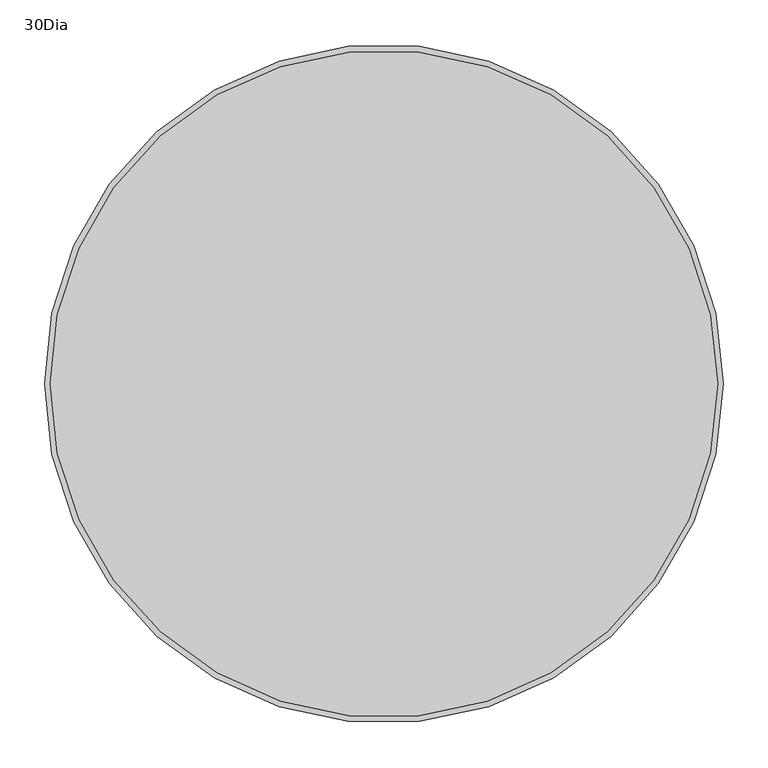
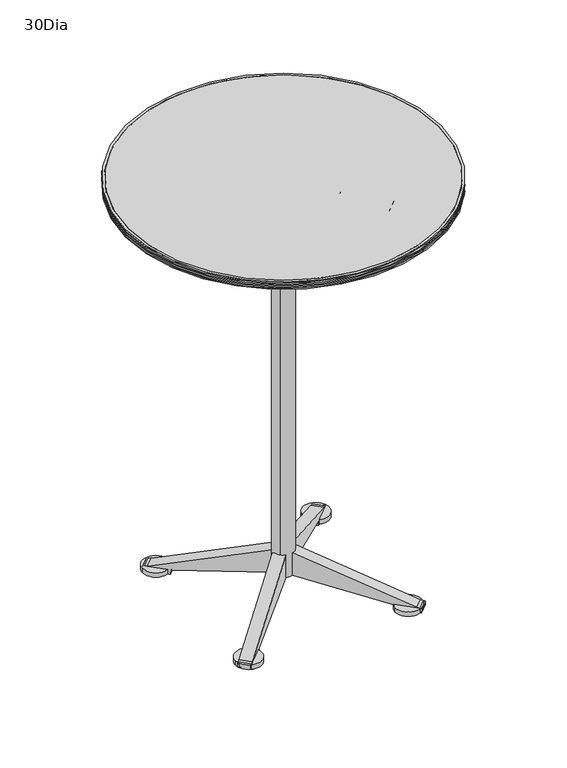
"""IFC4 building model written with IfcOpenShell, lengths in millimetres: furniture geometry, Coalesse_AM_Table_Conference_Ballet_Cafe : 30Dia."""

from ifc_helpers import new_model, si_unit, point, frame, frame_2d, origin, origin_with_axes, origin_2d, place, context, project, spatial, polyline, circle_curve, trimmed, segment, composite_curve, outline, extrude, source, transform, mapped, element, save
from ifc_brep_helpers import plane_surface, cylinder_surface, revolved_surface, advanced_brep


def furniture_30dia_b329b6b0(model_context):
    return source(origin(), model_context, "Body", "SolidModel", [
        extrude(outline(composite_curve([segment(polyline([(-37.2834365, 26.9246599), (-26.8661847, 37.3419116)]), True, "CONTINUOUS"), segment(trimmed(circle_curve(frame_2d((0.0745836, 10.4011432)), 38.1), [point((-26.8661847, 37.3419116))], [point((27.015352, 37.3419116))], False, "CARTESIAN"), True, "CONTINUOUS"), segment(polyline([(27.015352, 37.3419116), (38.9313594, 25.4259042)]), True, "CONTINUOUS"), segment(trimmed(circle_curve(frame_2d((13.4893466, -0.0161085)), 35.9804395), [point((38.9313594, 25.4259042))], [point((38.9313594, -25.4581212))], False, "CARTESIAN"), True, "CONTINUOUS"), segment(polyline([(38.9313594, -25.4581212), (27.015352, -37.3741286)]), True, "CONTINUOUS"), segment(trimmed(circle_curve(frame_2d((0.0745836, -10.4333602)), 38.1), [point((27.015352, -37.3741286))], [point((-26.8661847, -37.3741286))], False, "CARTESIAN"), True, "CONTINUOUS"), segment(polyline([(-26.8661847, -37.3741286), (-37.2834365, -26.9568769)]), True, "CONTINUOUS"), segment(trimmed(circle_curve(frame_2d((-10.3426681, -0.0161085)), 38.1), [point((-37.2834365, -26.9568769))], [point((-37.2834365, 26.9246599))], False, "CARTESIAN"), True, "CONTINUOUS")], self_intersect=False)), frame((0.0, 0.0, 942.7169247), z_axis=(0.0, 0.0, 1.0), x_axis=(1.0, 0.0, 0.0)), (0.0, 0.0, 1.0), 50.3081696),
        extrude(outline(composite_curve([segment(polyline([(-81.1409418, 49.3084633), (-49.5692956, 80.8801095)]), True, "CONTINUOUS"), segment(trimmed(circle_curve(frame_2d((0.0, 156.1108358)), 90.0931587), [point((-49.5692956, 80.8801095))], [point((49.871233, 81.0799264))], True, "CARTESIAN"), True, "CONTINUOUS"), segment(polyline([(49.871233, 81.0799264), (81.1309866, 49.8201728)]), True, "CONTINUOUS"), segment(trimmed(circle_curve(frame_2d((153.3620811, 0.0)), 87.7461145), [point((81.1309866, 49.8201728))], [point((81.7629451, -50.7241989))], True, "CARTESIAN"), True, "CONTINUOUS"), segment(polyline([(81.7629451, -50.7241989), (50.5881651, -81.8989789)]), True, "CONTINUOUS"), segment(trimmed(circle_curve(frame_2d((0.0, -154.7295322)), 88.6761069), [point((50.5881651, -81.8989789))], [point((-51.0893198, -82.2496499))], True, "CARTESIAN"), True, "CONTINUOUS"), segment(polyline([(-51.0893198, -82.2496499), (-82.3248918, -51.014078)]), True, "CONTINUOUS"), segment(trimmed(circle_curve(frame_2d((-153.9959305, 0.0)), 87.9725749), [point((-82.3248918, -51.014078))], [point((-81.1409418, 49.3084633))], True, "CARTESIAN"), True, "CONTINUOUS")], self_intersect=False)), frame((0.0, 0.0, 970.348073), z_axis=(0.0, 0.0, 1.0), x_axis=(1.0, 0.0, 0.0)), (0.0, 0.0, 1.0), 22.6770213),
        extrude(outline(composite_curve([segment(polyline([(114.3, 0.0), (115.2263736, -5.2537258)]), True, "CONTINUOUS"), segment(trimmed(circle_curve(frame_2d((109.4080133, -6.2796597)), 5.9081179), [point((115.2263736, -5.2537258))], [point((112.3666622, -11.3935872))], False, "CARTESIAN"), True, "CONTINUOUS"), segment(trimmed(circle_curve(frame_2d((-123.1481635, 395.6860679)), 470.2989248), [point((112.3666622, -11.3935872))], [point((-41.1216208, -67.404339))], False, "CARTESIAN"), True, "CONTINUOUS"), segment(trimmed(circle_curve(frame_2d((-123.1481635, 395.6860679)), 470.2989248), [point((-41.1216208, -67.404339))], [point((-66.3652264, -71.172344))], False, "CARTESIAN"), True, "CONTINUOUS"), segment(trimmed(circle_curve(frame_2d((-64.5887584, -85.7781231)), 14.7134164), [point((-66.3652264, -71.172344))], [point((-76.9601862, -77.8136775))], True, "CARTESIAN"), True, "CONTINUOUS"), segment(trimmed(circle_curve(frame_2d((-64.5887584, -85.7781231)), 14.7134164), [point((-76.9601862, -77.8136775))], [point((-79.0764227, -88.3456516))], True, "CARTESIAN"), True, "CONTINUOUS"), segment(trimmed(circle_curve(frame_2d((-82.4829244, -88.9493576)), 3.4595829), [point((-79.0764227, -88.3456516))], [point((-81.6450497, -92.3059452))], False, "CARTESIAN"), True, "CONTINUOUS"), segment(polyline([(-81.6450497, -92.3059452), (-160.9573766, -92.3059452)]), True, "CONTINUOUS"), segment(trimmed(circle_curve(frame_2d((-160.119502, -88.9493576)), 3.4595829), [point((-160.9573766, -92.3059452))], [point((-163.5260036, -88.3456516))], False, "CARTESIAN"), True, "CONTINUOUS"), segment(trimmed(circle_curve(frame_2d((-178.0136679, -85.7781231)), 14.7134164), [point((-163.5260036, -88.3456516))], [point((-165.6422401, -77.8136775))], True, "CARTESIAN"), True, "CONTINUOUS"), segment(trimmed(circle_curve(frame_2d((-178.0136679, -85.7781231)), 14.7134164), [point((-165.6422401, -77.8136775))], [point((-176.2372, -71.172344))], True, "CARTESIAN"), True, "CONTINUOUS"), segment(trimmed(circle_curve(frame_2d((-119.4542628, 395.6860679)), 470.2989248), [point((-176.2372, -71.172344))], [point((-201.4808056, -67.404339))], False, "CARTESIAN"), True, "CONTINUOUS"), segment(trimmed(circle_curve(frame_2d((-119.4542628, 395.6860679)), 470.2989248), [point((-201.4808056, -67.404339))], [point((-354.9690885, -11.3935872))], False, "CARTESIAN"), True, "CONTINUOUS"), segment(trimmed(circle_curve(frame_2d((-352.0104397, -6.2796597)), 5.9081179), [point((-354.9690885, -11.3935872))], [point((-357.8288, -5.2537258))], False, "CARTESIAN"), True, "CONTINUOUS"), segment(polyline([(-357.8288, -5.2537258), (-356.9024264, 0.0), (-242.6024263, 0.0)]), True, "CONTINUOUS"), segment(trimmed(circle_curve(frame_2d((-184.587638, 17.529313)), 60.6052183), [point((-242.6024263, 0.0))], [point((-195.8254097, -42.0249058))], True, "CARTESIAN"), True, "CONTINUOUS"), segment(trimmed(circle_curve(frame_2d((-133.7603939, 286.8867003)), 334.7161645), [point((-195.8254097, -42.0249058))], [point((-152.4418907, -47.3077229))], True, "CARTESIAN"), True, "CONTINUOUS"), segment(trimmed(circle_curve(frame_2d((-151.7916573, -35.6756582)), 11.6502245), [point((-152.4418907, -47.3077229))], [point((-142.023608, -42.0249058))], True, "CARTESIAN"), True, "CONTINUOUS"), segment(polyline([(-142.023608, -42.0249058), (-100.5788184, -42.0249058)]), True, "CONTINUOUS"), segment(trimmed(circle_curve(frame_2d((-90.810769, -35.6756582)), 11.6502245), [point((-100.5788184, -42.0249058))], [point((-90.1605356, -47.3077229))], True, "CARTESIAN"), True, "CONTINUOUS"), segment(trimmed(circle_curve(frame_2d((-108.8420324, 286.8867003)), 334.7161645), [point((-90.1605356, -47.3077229))], [point((-46.7770167, -42.0249058))], True, "CARTESIAN"), True, "CONTINUOUS"), segment(trimmed(circle_curve(frame_2d((-58.0147883, 17.529313)), 60.6052183), [point((-46.7770167, -42.0249058))], [point((0.0, 0.0))], True, "CARTESIAN"), True, "CONTINUOUS"), segment(polyline([(0.0, 0.0), (114.3, 0.0)]), True, "CONTINUOUS")], self_intersect=False)), frame((-101.4283173, 70.1175035, 1035.05), z_axis=(0.7071067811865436, 0.7071067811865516, 0.0), x_axis=(-0.7071067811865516, 0.7071067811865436, 0.0)), (0.0, 0.0, 1.0), 44.2801776),
        extrude(outline(composite_curve([segment(polyline([(114.3, 0.0), (115.2263736, -5.2537258)]), True, "CONTINUOUS"), segment(trimmed(circle_curve(frame_2d((109.4080133, -6.2796597)), 5.9081179), [point((115.2263736, -5.2537258))], [point((112.3666622, -11.3935872))], False, "CARTESIAN"), True, "CONTINUOUS"), segment(trimmed(circle_curve(frame_2d((-123.1481635, 395.6860679)), 470.2989248), [point((112.3666622, -11.3935872))], [point((-41.1216208, -67.404339))], False, "CARTESIAN"), True, "CONTINUOUS"), segment(trimmed(circle_curve(frame_2d((-123.1481635, 395.6860679)), 470.2989248), [point((-41.1216208, -67.404339))], [point((-66.3652264, -71.172344))], False, "CARTESIAN"), True, "CONTINUOUS"), segment(trimmed(circle_curve(frame_2d((-64.5887584, -85.7781231)), 14.7134164), [point((-66.3652264, -71.172344))], [point((-76.9601862, -77.8136775))], True, "CARTESIAN"), True, "CONTINUOUS"), segment(trimmed(circle_curve(frame_2d((-64.5887584, -85.7781231)), 14.7134164), [point((-76.9601862, -77.8136775))], [point((-79.0764227, -88.3456516))], True, "CARTESIAN"), True, "CONTINUOUS"), segment(trimmed(circle_curve(frame_2d((-82.4829244, -88.9493576)), 3.4595829), [point((-79.0764227, -88.3456516))], [point((-81.6450497, -92.3059452))], False, "CARTESIAN"), True, "CONTINUOUS"), segment(polyline([(-81.6450497, -92.3059452), (-160.9573766, -92.3059452)]), True, "CONTINUOUS"), segment(trimmed(circle_curve(frame_2d((-160.119502, -88.9493576)), 3.4595829), [point((-160.9573766, -92.3059452))], [point((-163.5260036, -88.3456516))], False, "CARTESIAN"), True, "CONTINUOUS"), segment(trimmed(circle_curve(frame_2d((-178.0136679, -85.7781231)), 14.7134164), [point((-163.5260036, -88.3456516))], [point((-165.6422401, -77.8136775))], True, "CARTESIAN"), True, "CONTINUOUS"), segment(trimmed(circle_curve(frame_2d((-178.0136679, -85.7781231)), 14.7134164), [point((-165.6422401, -77.8136775))], [point((-176.2372, -71.172344))], True, "CARTESIAN"), True, "CONTINUOUS"), segment(trimmed(circle_curve(frame_2d((-119.4542628, 395.6860679)), 470.2989248), [point((-176.2372, -71.172344))], [point((-201.4808056, -67.404339))], False, "CARTESIAN"), True, "CONTINUOUS"), segment(trimmed(circle_curve(frame_2d((-119.4542628, 395.6860679)), 470.2989248), [point((-201.4808056, -67.404339))], [point((-354.9690885, -11.3935872))], False, "CARTESIAN"), True, "CONTINUOUS"), segment(trimmed(circle_curve(frame_2d((-352.0104397, -6.2796597)), 5.9081179), [point((-354.9690885, -11.3935872))], [point((-357.8288, -5.2537258))], False, "CARTESIAN"), True, "CONTINUOUS"), segment(polyline([(-357.8288, -5.2537258), (-356.9024264, 0.0), (-242.6024263, 0.0)]), True, "CONTINUOUS"), segment(trimmed(circle_curve(frame_2d((-184.587638, 17.529313)), 60.6052183), [point((-242.6024263, 0.0))], [point((-195.8254097, -42.0249058))], True, "CARTESIAN"), True, "CONTINUOUS"), segment(trimmed(circle_curve(frame_2d((-133.7603939, 286.8867003)), 334.7161645), [point((-195.8254097, -42.0249058))], [point((-152.4418907, -47.3077229))], True, "CARTESIAN"), True, "CONTINUOUS"), segment(trimmed(circle_curve(frame_2d((-151.7916573, -35.6756582)), 11.6502245), [point((-152.4418907, -47.3077229))], [point((-142.023608, -42.0249058))], True, "CARTESIAN"), True, "CONTINUOUS"), segment(polyline([(-142.023608, -42.0249058), (-100.5788184, -42.0249058)]), True, "CONTINUOUS"), segment(trimmed(circle_curve(frame_2d((-90.810769, -35.6756582)), 11.6502245), [point((-100.5788184, -42.0249058))], [point((-90.1605356, -47.3077229))], True, "CARTESIAN"), True, "CONTINUOUS"), segment(trimmed(circle_curve(frame_2d((-108.8420324, 286.8867003)), 334.7161645), [point((-90.1605356, -47.3077229))], [point((-46.7770167, -42.0249058))], True, "CARTESIAN"), True, "CONTINUOUS"), segment(trimmed(circle_curve(frame_2d((-58.0147883, 17.529313)), 60.6052183), [point((-46.7770167, -42.0249058))], [point((0.0, 0.0))], True, "CARTESIAN"), True, "CONTINUOUS"), segment(polyline([(0.0, 0.0), (114.3, 0.0)]), True, "CONTINUOUS")], self_intersect=False)), frame((-70.1175035, -101.4283173, 1035.05), z_axis=(-0.707106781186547, 0.7071067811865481, 0.0), x_axis=(-0.7071067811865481, -0.707106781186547, 0.0)), (0.0, 0.0, 1.0), 44.2801776),
        extrude(outline(composite_curve([segment(trimmed(circle_curve(frame_2d((-194.715793, 197.3207687)), 31.75), [point((-226.465793, 197.3207687))], [point((-162.965793, 197.3207687))], False, "CARTESIAN"), True, "CONTINUOUS"), segment(trimmed(circle_curve(frame_2d((-194.715793, 197.3207687)), 31.75), [point((-162.965793, 197.3207687))], [point((-226.465793, 197.3207687))], False, "CARTESIAN"), True, "CONTINUOUS")], self_intersect=False)), frame((0.0, 0.0, 4.2904479), z_axis=(0.0, 0.0, 1.0), x_axis=(1.0, 0.0, 0.0)), (0.0, 0.0, 1.0), 11.3833531),
        extrude(outline(composite_curve([segment(trimmed(circle_curve(frame_2d((191.7194605, 196.5270187)), 31.75), [point((159.9694605, 196.5270187))], [point((223.4694605, 196.5270187))], False, "CARTESIAN"), True, "CONTINUOUS"), segment(trimmed(circle_curve(frame_2d((191.7194605, 196.5270187)), 31.75), [point((223.4694605, 196.5270187))], [point((159.9694605, 196.5270187))], False, "CARTESIAN"), True, "CONTINUOUS")], self_intersect=False)), frame((0.0, 0.0, 4.2904479), z_axis=(0.0, 0.0, 1.0), x_axis=(1.0, 0.0, 0.0)), (0.0, 0.0, 1.0), 11.3833531),
        extrude(outline(composite_curve([segment(trimmed(circle_curve(frame_2d((-194.715793, -191.2787692)), 31.75), [point((-226.465793, -191.2787692))], [point((-162.965793, -191.2787692))], False, "CARTESIAN"), True, "CONTINUOUS"), segment(trimmed(circle_curve(frame_2d((-194.715793, -191.2787692)), 31.75), [point((-162.965793, -191.2787692))], [point((-226.465793, -191.2787692))], False, "CARTESIAN"), True, "CONTINUOUS")], self_intersect=False)), frame((0.0, 0.0, 4.2904479), z_axis=(0.0, 0.0, 1.0), x_axis=(1.0, 0.0, 0.0)), (0.0, 0.0, 1.0), 11.3833531),
        extrude(outline(composite_curve([segment(trimmed(circle_curve(frame_2d((191.7194605, -190.4850192)), 31.75), [point((159.9694605, -190.4850192))], [point((223.4694605, -190.4850192))], False, "CARTESIAN"), True, "CONTINUOUS"), segment(trimmed(circle_curve(frame_2d((191.7194605, -190.4850192)), 31.75), [point((223.4694605, -190.4850192))], [point((159.9694605, -190.4850192))], False, "CARTESIAN"), True, "CONTINUOUS")], self_intersect=False)), frame((0.0, 0.0, 4.2904479), z_axis=(0.0, 0.0, 1.0), x_axis=(1.0, 0.0, 0.0)), (0.0, 0.0, 1.0), 11.3833531),
        extrude(outline(composite_curve([segment(polyline([(-57.749273, 0.0), (0.0, 0.0), (-90.9931074, -269.8641919), (-92.3030079, -279.1846177)]), True, "CONTINUOUS"), segment(trimmed(circle_curve(frame_2d((-93.9206951, -278.9572666)), 1.6335852), [point((-92.3030079, -279.1846177))], [point((-93.8206014, -280.5877823))], False, "CARTESIAN"), True, "CONTINUOUS"), segment(trimmed(circle_curve(frame_2d((-95.8523928, -247.4901147)), 33.1599725), [point((-93.8206014, -280.5877823))], [point((-101.682402, -280.1335639))], False, "CARTESIAN"), True, "CONTINUOUS"), segment(trimmed(circle_curve(frame_2d((-101.2796868, -277.8786768)), 2.2905666), [point((-101.682402, -280.1335639))], [point((-103.5674671, -277.7657306))], False, "CARTESIAN"), True, "CONTINUOUS"), segment(polyline([(-103.5674671, -277.7657306), (-103.5674671, -222.4322812)]), True, "CONTINUOUS"), segment(trimmed(circle_curve(frame_2d((-100.6154331, -221.9840334)), 2.9858719), [point((-103.5674671, -222.4322812))], [point((-100.2998684, -219.0148838))], False, "CARTESIAN"), True, "CONTINUOUS"), segment(trimmed(circle_curve(frame_2d((-98.3053249, -200.2482144)), 18.872363), [point((-100.2998684, -219.0148838))], [point((-94.5016021, -218.7332835))], True, "CARTESIAN"), True, "CONTINUOUS"), segment(trimmed(circle_curve(frame_2d((-95.1495986, -215.5841949)), 3.2150673), [point((-94.5016021, -218.7332835))], [point((-91.9741141, -216.0871422))], True, "CARTESIAN"), True, "CONTINUOUS"), segment(polyline([(-91.9741141, -216.0871422), (-57.749273, 0.0)]), True, "CONTINUOUS")], self_intersect=False)), frame((-23.5273141, 7.7834997, 107.857915), z_axis=(0.7071067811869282, 0.707106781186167, 0.0), x_axis=(0.0, 0.0, 1.0)), (0.0, 0.0, 1.0), 29.2174476),
        extrude(outline(composite_curve([segment(polyline([(-57.749273, 44.2801775), (-91.9741141, 260.3673198)]), True, "CONTINUOUS"), segment(trimmed(circle_curve(frame_2d((-95.1495986, 259.8643724)), 3.2150673), [point((-91.9741141, 260.3673198))], [point((-94.5016021, 263.013461))], True, "CARTESIAN"), True, "CONTINUOUS"), segment(trimmed(circle_curve(frame_2d((-98.3053249, 244.5283919)), 18.872363), [point((-94.5016021, 263.013461))], [point((-100.2998684, 263.2950613))], True, "CARTESIAN"), True, "CONTINUOUS"), segment(trimmed(circle_curve(frame_2d((-100.6154331, 266.2642109)), 2.9858719), [point((-100.2998684, 263.2950613))], [point((-103.5674671, 266.7124587))], False, "CARTESIAN"), True, "CONTINUOUS"), segment(polyline([(-103.5674671, 266.7124587), (-103.5674671, 322.0459081)]), True, "CONTINUOUS"), segment(trimmed(circle_curve(frame_2d((-101.2796868, 322.1588543)), 2.2905666), [point((-103.5674671, 322.0459081))], [point((-101.682402, 324.4137415))], False, "CARTESIAN"), True, "CONTINUOUS"), segment(trimmed(circle_curve(frame_2d((-95.8523928, 291.7702923)), 33.1599725), [point((-101.682402, 324.4137415))], [point((-93.8206014, 324.8679598))], False, "CARTESIAN"), True, "CONTINUOUS"), segment(trimmed(circle_curve(frame_2d((-93.9206951, 323.2374442)), 1.6335852), [point((-93.8206014, 324.8679598))], [point((-92.3030079, 323.4647953))], False, "CARTESIAN"), True, "CONTINUOUS"), segment(polyline([(-92.3030079, 323.4647953), (-90.9931074, 314.1443694), (0.0, 44.2801775), (-57.749273, 44.2801775)]), True, "CONTINUOUS")], self_intersect=False)), frame((-23.5273141, 7.7834997, 107.857915), z_axis=(0.7071067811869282, 0.707106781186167, 0.0), x_axis=(0.0, 0.0, 1.0)), (0.0, 0.0, 1.0), 29.2174476),
        extrude(outline(composite_curve([segment(polyline([(-57.749273, 0.0), (0.0, 0.0), (-90.9931074, -269.8641919), (-92.3030079, -279.1846177)]), True, "CONTINUOUS"), segment(trimmed(circle_curve(frame_2d((-93.9206951, -278.9572666)), 1.6335852), [point((-92.3030079, -279.1846177))], [point((-93.8206014, -280.5877823))], False, "CARTESIAN"), True, "CONTINUOUS"), segment(trimmed(circle_curve(frame_2d((-95.8523928, -247.4901147)), 33.1599725), [point((-93.8206014, -280.5877823))], [point((-101.682402, -280.1335639))], False, "CARTESIAN"), True, "CONTINUOUS"), segment(trimmed(circle_curve(frame_2d((-101.2796868, -277.8786768)), 2.2905666), [point((-101.682402, -280.1335639))], [point((-103.5674671, -277.7657306))], False, "CARTESIAN"), True, "CONTINUOUS"), segment(polyline([(-103.5674671, -277.7657306), (-103.5674671, -222.4322812)]), True, "CONTINUOUS"), segment(trimmed(circle_curve(frame_2d((-100.6154331, -221.9840334)), 2.9858719), [point((-103.5674671, -222.4322812))], [point((-100.2998684, -219.0148838))], False, "CARTESIAN"), True, "CONTINUOUS"), segment(trimmed(circle_curve(frame_2d((-98.3053249, -200.2482144)), 18.872363), [point((-100.2998684, -219.0148838))], [point((-94.5016021, -218.7332835))], True, "CARTESIAN"), True, "CONTINUOUS"), segment(trimmed(circle_curve(frame_2d((-95.1495986, -215.5841949)), 3.2150673), [point((-94.5016021, -218.7332835))], [point((-91.9741141, -216.0871422))], True, "CARTESIAN"), True, "CONTINUOUS"), segment(polyline([(-91.9741141, -216.0871422), (-57.749273, 0.0)]), True, "CONTINUOUS")], self_intersect=False)), frame((-7.7834997, -23.5273141, 107.857915), z_axis=(-0.7071067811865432, 0.7071067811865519, 0.0), x_axis=(0.0, 0.0, 1.0)), (0.0, 0.0, 1.0), 29.2174476),
        extrude(outline(composite_curve([segment(polyline([(-57.749273, 44.2801775), (-91.9741141, 260.3673198)]), True, "CONTINUOUS"), segment(trimmed(circle_curve(frame_2d((-95.1495986, 259.8643724)), 3.2150673), [point((-91.9741141, 260.3673198))], [point((-94.5016021, 263.013461))], True, "CARTESIAN"), True, "CONTINUOUS"), segment(trimmed(circle_curve(frame_2d((-98.3053249, 244.5283919)), 18.872363), [point((-94.5016021, 263.013461))], [point((-100.2998684, 263.2950613))], True, "CARTESIAN"), True, "CONTINUOUS"), segment(trimmed(circle_curve(frame_2d((-100.6154331, 266.2642109)), 2.9858719), [point((-100.2998684, 263.2950613))], [point((-103.5674671, 266.7124587))], False, "CARTESIAN"), True, "CONTINUOUS"), segment(polyline([(-103.5674671, 266.7124587), (-103.5674671, 322.0459081)]), True, "CONTINUOUS"), segment(trimmed(circle_curve(frame_2d((-101.2796868, 322.1588543)), 2.2905666), [point((-103.5674671, 322.0459081))], [point((-101.682402, 324.4137415))], False, "CARTESIAN"), True, "CONTINUOUS"), segment(trimmed(circle_curve(frame_2d((-95.8523928, 291.7702923)), 33.1599725), [point((-101.682402, 324.4137415))], [point((-93.8206014, 324.8679598))], False, "CARTESIAN"), True, "CONTINUOUS"), segment(trimmed(circle_curve(frame_2d((-93.9206951, 323.2374442)), 1.6335852), [point((-93.8206014, 324.8679598))], [point((-92.3030079, 323.4647953))], False, "CARTESIAN"), True, "CONTINUOUS"), segment(polyline([(-92.3030079, 323.4647953), (-90.9931074, 314.1443694), (0.0, 44.2801775), (-57.749273, 44.2801775)]), True, "CONTINUOUS")], self_intersect=False)), frame((-7.7834997, -23.5273141, 107.857915), z_axis=(-0.7071067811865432, 0.7071067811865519, 0.0), x_axis=(0.0, 0.0, 1.0)), (0.0, 0.0, 1.0), 29.2174476),
        extrude(outline(composite_curve([segment(polyline([(-57.749273, 0.0), (0.0, 0.0), (-90.9931074, -269.8641919), (-92.3030079, -279.1846177)]), True, "CONTINUOUS"), segment(trimmed(circle_curve(frame_2d((-93.9206951, -278.9572666)), 1.6335852), [point((-92.3030079, -279.1846177))], [point((-93.8206014, -280.5877823))], False, "CARTESIAN"), True, "CONTINUOUS"), segment(trimmed(circle_curve(frame_2d((-95.8523928, -247.4901147)), 33.1599725), [point((-93.8206014, -280.5877823))], [point((-101.682402, -280.1335639))], False, "CARTESIAN"), True, "CONTINUOUS"), segment(trimmed(circle_curve(frame_2d((-101.2796868, -277.8786768)), 2.2905666), [point((-101.682402, -280.1335639))], [point((-103.5674671, -277.7657306))], False, "CARTESIAN"), True, "CONTINUOUS"), segment(polyline([(-103.5674671, -277.7657306), (-103.5674671, -222.4322812)]), True, "CONTINUOUS"), segment(trimmed(circle_curve(frame_2d((-100.6154331, -221.9840334)), 2.9858719), [point((-103.5674671, -222.4322812))], [point((-100.2998684, -219.0148838))], False, "CARTESIAN"), True, "CONTINUOUS"), segment(trimmed(circle_curve(frame_2d((-98.3053249, -200.2482144)), 18.872363), [point((-100.2998684, -219.0148838))], [point((-94.5016021, -218.7332835))], True, "CARTESIAN"), True, "CONTINUOUS"), segment(trimmed(circle_curve(frame_2d((-95.1495986, -215.5841949)), 3.2150673), [point((-94.5016021, -218.7332835))], [point((-91.9741141, -216.0871422))], True, "CARTESIAN"), True, "CONTINUOUS"), segment(polyline([(-91.9741141, -216.0871422), (-57.749273, 0.0)]), True, "CONTINUOUS")], self_intersect=False)), frame((-23.5273141, 7.7834997, 107.857915), z_axis=(0.7071067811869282, 0.707106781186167, 0.0), x_axis=(0.0, 0.0, 1.0)), (0.0, 0.0, 1.0), 29.2174476),
        extrude(outline(composite_curve([segment(polyline([(-57.749273, 44.2801775), (-91.9741141, 260.3673198)]), True, "CONTINUOUS"), segment(trimmed(circle_curve(frame_2d((-95.1495986, 259.8643724)), 3.2150673), [point((-91.9741141, 260.3673198))], [point((-94.5016021, 263.013461))], True, "CARTESIAN"), True, "CONTINUOUS"), segment(trimmed(circle_curve(frame_2d((-98.3053249, 244.5283919)), 18.872363), [point((-94.5016021, 263.013461))], [point((-100.2998684, 263.2950613))], True, "CARTESIAN"), True, "CONTINUOUS"), segment(trimmed(circle_curve(frame_2d((-100.6154331, 266.2642109)), 2.9858719), [point((-100.2998684, 263.2950613))], [point((-103.5674671, 266.7124587))], False, "CARTESIAN"), True, "CONTINUOUS"), segment(polyline([(-103.5674671, 266.7124587), (-103.5674671, 322.0459081)]), True, "CONTINUOUS"), segment(trimmed(circle_curve(frame_2d((-101.2796868, 322.1588543)), 2.2905666), [point((-103.5674671, 322.0459081))], [point((-101.682402, 324.4137415))], False, "CARTESIAN"), True, "CONTINUOUS"), segment(trimmed(circle_curve(frame_2d((-95.8523928, 291.7702923)), 33.1599725), [point((-101.682402, 324.4137415))], [point((-93.8206014, 324.8679598))], False, "CARTESIAN"), True, "CONTINUOUS"), segment(trimmed(circle_curve(frame_2d((-93.9206951, 323.2374442)), 1.6335852), [point((-93.8206014, 324.8679598))], [point((-92.3030079, 323.4647953))], False, "CARTESIAN"), True, "CONTINUOUS"), segment(polyline([(-92.3030079, 323.4647953), (-90.9931074, 314.1443694), (0.0, 44.2801775), (-57.749273, 44.2801775)]), True, "CONTINUOUS")], self_intersect=False)), frame((-23.5273141, 7.7834997, 107.857915), z_axis=(0.7071067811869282, 0.707106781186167, 0.0), x_axis=(0.0, 0.0, 1.0)), (0.0, 0.0, 1.0), 29.2174476),
        extrude(outline(composite_curve([segment(polyline([(-57.749273, 0.0), (0.0, 0.0), (-90.9931074, -269.8641919), (-92.3030079, -279.1846177)]), True, "CONTINUOUS"), segment(trimmed(circle_curve(frame_2d((-93.9206951, -278.9572666)), 1.6335852), [point((-92.3030079, -279.1846177))], [point((-93.8206014, -280.5877823))], False, "CARTESIAN"), True, "CONTINUOUS"), segment(trimmed(circle_curve(frame_2d((-95.8523928, -247.4901147)), 33.1599725), [point((-93.8206014, -280.5877823))], [point((-101.682402, -280.1335639))], False, "CARTESIAN"), True, "CONTINUOUS"), segment(trimmed(circle_curve(frame_2d((-101.2796868, -277.8786768)), 2.2905666), [point((-101.682402, -280.1335639))], [point((-103.5674671, -277.7657306))], False, "CARTESIAN"), True, "CONTINUOUS"), segment(polyline([(-103.5674671, -277.7657306), (-103.5674671, -222.4322812)]), True, "CONTINUOUS"), segment(trimmed(circle_curve(frame_2d((-100.6154331, -221.9840334)), 2.9858719), [point((-103.5674671, -222.4322812))], [point((-100.2998684, -219.0148838))], False, "CARTESIAN"), True, "CONTINUOUS"), segment(trimmed(circle_curve(frame_2d((-98.3053249, -200.2482144)), 18.872363), [point((-100.2998684, -219.0148838))], [point((-94.5016021, -218.7332835))], True, "CARTESIAN"), True, "CONTINUOUS"), segment(trimmed(circle_curve(frame_2d((-95.1495986, -215.5841949)), 3.2150673), [point((-94.5016021, -218.7332835))], [point((-91.9741141, -216.0871422))], True, "CARTESIAN"), True, "CONTINUOUS"), segment(polyline([(-91.9741141, -216.0871422), (-57.749273, 0.0)]), True, "CONTINUOUS")], self_intersect=False)), frame((-7.7834997, -23.5273141, 107.857915), z_axis=(-0.7071067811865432, 0.7071067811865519, 0.0), x_axis=(0.0, 0.0, 1.0)), (0.0, 0.0, 1.0), 29.2174476),
        extrude(outline(composite_curve([segment(polyline([(-57.749273, 44.2801775), (-91.9741141, 260.3673198)]), True, "CONTINUOUS"), segment(trimmed(circle_curve(frame_2d((-95.1495986, 259.8643724)), 3.2150673), [point((-91.9741141, 260.3673198))], [point((-94.5016021, 263.013461))], True, "CARTESIAN"), True, "CONTINUOUS"), segment(trimmed(circle_curve(frame_2d((-98.3053249, 244.5283919)), 18.872363), [point((-94.5016021, 263.013461))], [point((-100.2998684, 263.2950613))], True, "CARTESIAN"), True, "CONTINUOUS"), segment(trimmed(circle_curve(frame_2d((-100.6154331, 266.2642109)), 2.9858719), [point((-100.2998684, 263.2950613))], [point((-103.5674671, 266.7124587))], False, "CARTESIAN"), True, "CONTINUOUS"), segment(polyline([(-103.5674671, 266.7124587), (-103.5674671, 322.0459081)]), True, "CONTINUOUS"), segment(trimmed(circle_curve(frame_2d((-101.2796868, 322.1588543)), 2.2905666), [point((-103.5674671, 322.0459081))], [point((-101.682402, 324.4137415))], False, "CARTESIAN"), True, "CONTINUOUS"), segment(trimmed(circle_curve(frame_2d((-95.8523928, 291.7702923)), 33.1599725), [point((-101.682402, 324.4137415))], [point((-93.8206014, 324.8679598))], False, "CARTESIAN"), True, "CONTINUOUS"), segment(trimmed(circle_curve(frame_2d((-93.9206951, 323.2374442)), 1.6335852), [point((-93.8206014, 324.8679598))], [point((-92.3030079, 323.4647953))], False, "CARTESIAN"), True, "CONTINUOUS"), segment(polyline([(-92.3030079, 323.4647953), (-90.9931074, 314.1443694), (0.0, 44.2801775), (-57.749273, 44.2801775)]), True, "CONTINUOUS")], self_intersect=False)), frame((-7.7834997, -23.5273141, 107.857915), z_axis=(-0.7071067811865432, 0.7071067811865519, 0.0), x_axis=(0.0, 0.0, 1.0)), (0.0, 0.0, 1.0), 29.2174476),
        extrude(outline(composite_curve([segment(trimmed(circle_curve(frame_2d((192.2336051, -190.6461051)), 25.4), [point((174.2730929, -208.6066174))], [point((210.1941174, -172.6855929))], False, "CARTESIAN"), True, "CONTINUOUS"), segment(trimmed(circle_curve(frame_2d((192.2336051, -190.6461051)), 25.4), [point((210.1941174, -172.6855929))], [point((174.2730929, -208.6066174))], False, "CARTESIAN"), True, "CONTINUOUS")], self_intersect=False)), origin_with_axes(), (0.0, 0.0, 1.0), 4.2904479),
        extrude(outline(composite_curve([segment(trimmed(circle_curve(frame_2d((192.2336051, 196.9961051)), 25.4), [point((174.2730929, 179.0355929))], [point((210.1941174, 214.9566174))], False, "CARTESIAN"), True, "CONTINUOUS"), segment(trimmed(circle_curve(frame_2d((192.2336051, 196.9961051)), 25.4), [point((210.1941174, 214.9566174))], [point((174.2730929, 179.0355929))], False, "CARTESIAN"), True, "CONTINUOUS")], self_intersect=False)), origin_with_axes(), (0.0, 0.0, 1.0), 4.2904479),
        extrude(outline(composite_curve([segment(trimmed(circle_curve(frame_2d((-194.6148551, -191.4398551)), 25.4), [point((-212.5753674, -209.4003674))], [point((-176.6543429, -173.4793429))], False, "CARTESIAN"), True, "CONTINUOUS"), segment(trimmed(circle_curve(frame_2d((-194.6148551, -191.4398551)), 25.4), [point((-176.6543429, -173.4793429))], [point((-212.5753674, -209.4003674))], False, "CARTESIAN"), True, "CONTINUOUS")], self_intersect=False)), origin_with_axes(), (0.0, 0.0, 1.0), 4.2904479),
        extrude(outline(composite_curve([segment(trimmed(circle_curve(frame_2d((-194.2179801, 197.3929801)), 25.4), [point((-212.1784924, 179.4324679))], [point((-176.2574679, 215.3534924))], False, "CARTESIAN"), True, "CONTINUOUS"), segment(trimmed(circle_curve(frame_2d((-194.2179801, 197.3929801)), 25.4), [point((-176.2574679, 215.3534924))], [point((-212.1784924, 179.4324679))], False, "CARTESIAN"), True, "CONTINUOUS")], self_intersect=False)), origin_with_axes(), (0.0, 0.0, 1.0), 4.2904479),
        extrude(outline(composite_curve([segment(trimmed(circle_curve(frame_2d((1.04e-05, -1.04e-05)), 25.3999999), [point((-17.9605018, -17.9605225))], [point((17.9605225, 17.9605018))], False, "CARTESIAN"), True, "CONTINUOUS"), segment(trimmed(circle_curve(frame_2d((1.04e-05, -1.04e-05)), 25.3999999), [point((17.9605225, 17.9605018))], [point((-17.9605018, -17.9605225))], False, "CARTESIAN"), True, "CONTINUOUS")], self_intersect=False)), frame((0.0, 0.0, 50.8000015), z_axis=(0.0, 0.0, 1.0), x_axis=(1.0, 0.0, 0.0)), (0.0, 0.0, 1.0), 891.9440533),
        advanced_brep(
        [(-374.65, 0.0, 1054.1), (374.65, 0.0, 1054.1), (374.65, 0.0, 1035.05), (-374.65, 0.0, 1035.05), (-381.0014531, 0.0, 1050.9255014), (381.0014531, 0.0, 1050.9255014), (381.0014531, 0.0, 1054.1), (-381.0014531, 0.0, 1054.1), (-377.8250923, 0.0, 1049.3372226), (377.8250923, 0.0, 1049.3372226), (-380.9994452, 0.0, 1047.7499574), (380.9994452, 0.0, 1047.7499574), (-377.8325242, 0.0, 1046.1572867), (377.8325242, 0.0, 1046.1572867), (-380.9988213, 0.0, 1044.5753433), (380.9988213, 0.0, 1044.5753433), (-377.8320974, 0.0, 1042.9853908), (377.8320974, 0.0, 1042.9853908), (-381.0002675, 0.0, 1041.4011743), (381.0002675, 0.0, 1041.4011743), (-377.8314582, 0.0, 1039.8095518), (377.8314582, 0.0, 1039.8095518), (-381.0, 0.0, 1038.2238127), (381.0, 0.0, 1038.2238127), (-381.0, 0.0, 1035.05), (381.0, 0.0, 1035.05)],
        [
            (0, 1, circle_curve(frame((0.0, 0.0, 1054.1), z_axis=(0.0, 0.0, 1.0), x_axis=(1.0, 0.0, 0.0)), 374.65)),
            (1, 2),
            (2, 3, circle_curve(frame((0.0, 0.0, 1035.05), z_axis=(0.0, 0.0, -1.0), x_axis=(1.0, 0.0, 0.0)), 374.65)),
            (3, 0),
            (4, 5, circle_curve(frame((0.0, 0.0, 1050.9255014), z_axis=(0.0, 0.0, 1.0), x_axis=(1.0, 0.0, 0.0)), 381.0014531)),
            (5, 6),
            (6, 7, circle_curve(frame((0.0, 0.0, 1054.1), z_axis=(0.0, 0.0, -1.0), x_axis=(1.0, 0.0, 0.0)), 381.0014531)),
            (7, 4),
            (8, 9, circle_curve(frame((0.0, 0.0, 1049.3372226), z_axis=(0.0, 0.0, 1.0), x_axis=(1.0, 0.0, 0.0)), 377.8250923)),
            (9, 5),
            (4, 8),
            (10, 11, circle_curve(frame((0.0, 0.0, 1047.7499574), z_axis=(0.0, 0.0, 1.0), x_axis=(1.0, 0.0, 0.0)), 380.9994452)),
            (11, 9),
            (8, 10),
            (12, 13, circle_curve(frame((0.0, 0.0, 1046.1572867), z_axis=(0.0, 0.0, 1.0), x_axis=(1.0, 0.0, 0.0)), 377.8325242)),
            (13, 11),
            (10, 12),
            (14, 15, circle_curve(frame((0.0, 0.0, 1044.5753433), z_axis=(0.0, 0.0, 1.0), x_axis=(1.0, 0.0, 0.0)), 380.9988213)),
            (15, 13),
            (12, 14),
            (16, 17, circle_curve(frame((0.0, 0.0, 1042.9853908), z_axis=(0.0, 0.0, 1.0), x_axis=(1.0, 0.0, 0.0)), 377.8320974)),
            (17, 15),
            (14, 16),
            (18, 19, circle_curve(frame((0.0, 0.0, 1041.4011743), z_axis=(0.0, 0.0, 1.0), x_axis=(1.0, 0.0, 0.0)), 381.0002675)),
            (19, 17),
            (16, 18),
            (20, 21, circle_curve(frame((0.0, 0.0, 1039.8095518), z_axis=(0.0, 0.0, 1.0), x_axis=(1.0, 0.0, 0.0)), 377.8314582)),
            (21, 19),
            (18, 20),
            (22, 23, circle_curve(frame((0.0, 0.0, 1038.2238127), z_axis=(0.0, 0.0, 1.0), x_axis=(1.0, 0.0, 0.0)), 381.0)),
            (23, 21),
            (20, 22),
            (24, 25, circle_curve(frame((0.0, 0.0, 1035.05), z_axis=(0.0, 0.0, 1.0), x_axis=(1.0, 0.0, 0.0)), 381.0)),
            (25, 23),
            (22, 24),
            (1, 0, circle_curve(frame((0.0, 0.0, 1054.1), z_axis=(0.0, 0.0, 1.0), x_axis=(-1.0, 0.0, 0.0)), 374.65)),
            (3, 2, circle_curve(frame((0.0, 0.0, 1035.05), z_axis=(0.0, 0.0, -1.0), x_axis=(-1.0, 0.0, 0.0)), 374.65)),
            (6, 7, circle_curve(frame((0.0, 0.0, 1054.1), z_axis=(0.0, 0.0, 1.0), x_axis=(-1.0, 0.0, 0.0)), 381.0014531)),
            (5, 4, circle_curve(frame((0.0, 0.0, 1050.9255014), z_axis=(0.0, 0.0, 1.0), x_axis=(-1.0, 0.0, 0.0)), 381.0014531)),
            (9, 8, circle_curve(frame((0.0, 0.0, 1049.3372226), z_axis=(0.0, 0.0, 1.0), x_axis=(-1.0, 0.0, 0.0)), 377.8250923)),
            (11, 10, circle_curve(frame((0.0, 0.0, 1047.7499574), z_axis=(0.0, 0.0, 1.0), x_axis=(-1.0, 0.0, 0.0)), 380.9994452)),
            (13, 12, circle_curve(frame((0.0, 0.0, 1046.1572867), z_axis=(0.0, 0.0, 1.0), x_axis=(-1.0, 0.0, 0.0)), 377.8325242)),
            (15, 14, circle_curve(frame((0.0, 0.0, 1044.5753433), z_axis=(0.0, 0.0, 1.0), x_axis=(-1.0, 0.0, 0.0)), 380.9988213)),
            (17, 16, circle_curve(frame((0.0, 0.0, 1042.9853908), z_axis=(0.0, 0.0, 1.0), x_axis=(-1.0, 0.0, 0.0)), 377.8320974)),
            (19, 18, circle_curve(frame((0.0, 0.0, 1041.4011743), z_axis=(0.0, 0.0, 1.0), x_axis=(-1.0, 0.0, 0.0)), 381.0002675)),
            (21, 20, circle_curve(frame((0.0, 0.0, 1039.8095518), z_axis=(0.0, 0.0, 1.0), x_axis=(-1.0, 0.0, 0.0)), 377.8314582)),
            (23, 22, circle_curve(frame((0.0, 0.0, 1038.2238127), z_axis=(0.0, 0.0, 1.0), x_axis=(-1.0, 0.0, 0.0)), 381.0)),
            (25, 24, circle_curve(frame((0.0, 0.0, 1035.05), z_axis=(0.0, 0.0, 1.0), x_axis=(-1.0, 0.0, 0.0)), 381.0)),
        ],
        [
            revolved_surface(polyline([(374.65, 0.0, 1035.05), (374.65, 0.0, 1054.1)]), (0.0, 0.0, 1054.1), (0.0, 0.0, -1.0)),
            cylinder_surface(frame((0.0, 0.0, 1054.1), z_axis=(0.0, 0.0, -1.0), x_axis=(1.0, 0.0, 0.0)), 381.0014531),
            revolved_surface(polyline([(381.0014531, 0.0, 1050.9255014), (377.8250923, 0.0, 1049.3372226)]), (0.0, 0.0, 1054.1), (0.0, 0.0, -1.0)),
            revolved_surface(polyline([(377.8250923, 0.0, 1049.3372226), (380.9994452, 0.0, 1047.7499574)]), (0.0, 0.0, 1054.1), (0.0, 0.0, -1.0)),
            revolved_surface(polyline([(380.9994452, 0.0, 1047.7499574), (377.8325242, 0.0, 1046.1572867)]), (0.0, 0.0, 1054.1), (0.0, 0.0, -1.0)),
            revolved_surface(polyline([(377.8325242, 0.0, 1046.1572867), (380.9988213, 0.0, 1044.5753433)]), (0.0, 0.0, 1054.1), (0.0, 0.0, -1.0)),
            revolved_surface(polyline([(380.9988213, 0.0, 1044.5753433), (377.8320974, 0.0, 1042.9853908)]), (0.0, 0.0, 1054.1), (0.0, 0.0, -1.0)),
            revolved_surface(polyline([(377.8320974, 0.0, 1042.9853908), (381.0002675, 0.0, 1041.4011743)]), (0.0, 0.0, 1054.1), (0.0, 0.0, -1.0)),
            revolved_surface(polyline([(381.0002675, 0.0, 1041.4011743), (377.8314582, 0.0, 1039.8095518)]), (0.0, 0.0, 1054.1), (0.0, 0.0, -1.0)),
            revolved_surface(polyline([(377.8314582, 0.0, 1039.8095518), (381.0, 0.0, 1038.2238127)]), (0.0, 0.0, 1054.1), (0.0, 0.0, -1.0)),
            cylinder_surface(frame((0.0, 0.0, 1054.1), z_axis=(0.0, 0.0, -1.0), x_axis=(1.0, 0.0, 0.0)), 381.0),
            revolved_surface(polyline([(-374.65, 0.0, 1035.05), (-374.65, 0.0, 1054.1)]), (0.0, 0.0, 1054.1), (0.0, 0.0, -1.0)),
            plane_surface(frame((0.0, 0.0, 1054.1), z_axis=(0.0, 0.0, 1.0), x_axis=(-1.0, 0.0, 0.0))),
            cylinder_surface(frame((0.0, 0.0, 1054.1), z_axis=(0.0, 0.0, -1.0), x_axis=(-1.0, 0.0, 0.0)), 381.0014531),
            revolved_surface(polyline([(-381.0014531, 0.0, 1050.9255014), (-377.8250923, 0.0, 1049.3372226)]), (0.0, 0.0, 1054.1), (0.0, 0.0, -1.0)),
            revolved_surface(polyline([(-377.8250923, 0.0, 1049.3372226), (-380.9994452, 0.0, 1047.7499574)]), (0.0, 0.0, 1054.1), (0.0, 0.0, -1.0)),
            revolved_surface(polyline([(-380.9994452, 0.0, 1047.7499574), (-377.8325242, 0.0, 1046.1572867)]), (0.0, 0.0, 1054.1), (0.0, 0.0, -1.0)),
            revolved_surface(polyline([(-377.8325242, 0.0, 1046.1572867), (-380.9988213, 0.0, 1044.5753433)]), (0.0, 0.0, 1054.1), (0.0, 0.0, -1.0)),
            revolved_surface(polyline([(-380.9988213, 0.0, 1044.5753433), (-377.8320974, 0.0, 1042.9853908)]), (0.0, 0.0, 1054.1), (0.0, 0.0, -1.0)),
            revolved_surface(polyline([(-377.8320974, 0.0, 1042.9853908), (-381.0002675, 0.0, 1041.4011743)]), (0.0, 0.0, 1054.1), (0.0, 0.0, -1.0)),
            revolved_surface(polyline([(-381.0002675, 0.0, 1041.4011743), (-377.8314582, 0.0, 1039.8095518)]), (0.0, 0.0, 1054.1), (0.0, 0.0, -1.0)),
            revolved_surface(polyline([(-377.8314582, 0.0, 1039.8095518), (-381.0, 0.0, 1038.2238127)]), (0.0, 0.0, 1054.1), (0.0, 0.0, -1.0)),
            cylinder_surface(frame((0.0, 0.0, 1054.1), z_axis=(0.0, 0.0, -1.0), x_axis=(-1.0, 0.0, 0.0)), 381.0),
            plane_surface(frame((0.0, 0.0, 1035.05), z_axis=(0.0, 0.0, -1.0), x_axis=(-1.0, 0.0, 0.0))),
        ],
        [
            (0, [[1, 2, 3, 4]]),
            (1, [[5, 6, 7, 8]]),
            (2, [[9, 10, -5, 11]]),
            (3, [[12, 13, -9, 14]]),
            (4, [[15, 16, -12, 17]]),
            (5, [[18, 19, -15, 20]]),
            (6, [[21, 22, -18, 23]]),
            (7, [[24, 25, -21, 26]]),
            (8, [[27, 28, -24, 29]]),
            (9, [[30, 31, -27, 32]]),
            (10, [[33, 34, -30, 35]]),
            (11, [[36, -4, 37, -2]]),
            (12, [[38, -7], [-36, -1]]),
            (13, [[39, -8, -38, -6]]),
            (14, [[40, -11, -39, -10]]),
            (15, [[41, -14, -40, -13]]),
            (16, [[42, -17, -41, -16]]),
            (17, [[43, -20, -42, -19]]),
            (18, [[44, -23, -43, -22]]),
            (19, [[45, -26, -44, -25]]),
            (20, [[46, -29, -45, -28]]),
            (21, [[47, -32, -46, -31]]),
            (22, [[48, -35, -47, -34]]),
            (23, [[-48, -33], [-37, -3]]),
        ],
    ),
        extrude(outline(composite_curve([segment(trimmed(circle_curve(origin_2d(), 374.65), [point((-374.65, 0.0))], [point((374.65, 0.0))], False, "CARTESIAN"), True, "CONTINUOUS"), segment(trimmed(circle_curve(origin_2d(), 374.65), [point((374.65, 0.0))], [point((-374.65, 0.0))], False, "CARTESIAN"), True, "CONTINUOUS")], self_intersect=False)), frame((0.0, 0.0, 1035.05), z_axis=(0.0, 0.0, 1.0), x_axis=(1.0, 0.0, 0.0)), (0.0, 0.0, 1.0), 19.05),
    ])


if __name__ == "__main__":
    model = new_model("IFC4")
    model_context = context("Model", 3, world=origin())
    ifc_project = project(units=[si_unit("LENGTHUNIT", "METRE", prefix="MILLI")], contexts=[model_context])
    site = spatial("IfcSite", under=ifc_project)
    building = spatial("IfcBuilding", under=site)
    placement = place(None, origin())
    furniture_30dia_shape = furniture_30dia_b329b6b0(model_context)
    element("IfcFurniture", 1, ObjectType="Coalesse_AM_Table_Conference_Ballet_Cafe : 30Dia", at=placement, inside=building, context=model_context, shape_type="MappedRepresentation", body=[
        mapped(furniture_30dia_shape, transform((0.0, 0.0, 0.0), x_axis=(1.0, 0.0, 0.0), y_axis=(0.0, 1.0, 0.0), z_axis=(0.0, 0.0, 1.0))),
    ])
    save(model, "model.ifc")
